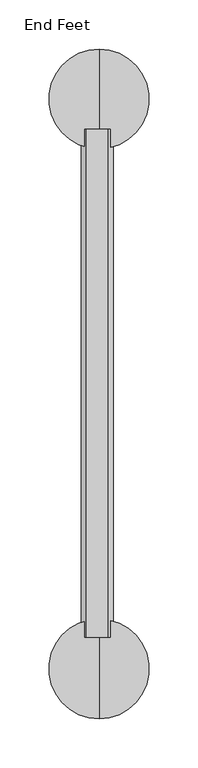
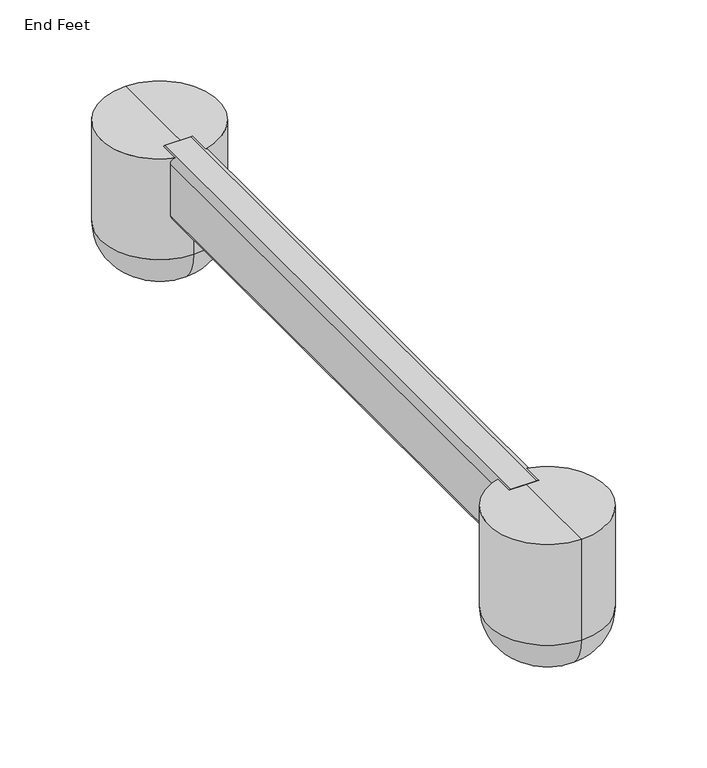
"""IFC4 building model written with IfcOpenShell, lengths in millimetres: furniture geometry, Coalesse_AM_Ensemble_Chaise_EndOption : End Feet."""

from ifc_helpers import new_model, si_unit, point, frame, frame_2d, origin, place, context, project, spatial, polyline, circle_curve, ellipse_curve, trimmed, segment, composite_curve, outline, extrude, source, transform, mapped, element, save
from ifc_brep_helpers import plane_surface, cylinder_surface, revolved_surface, advanced_brep


def end_feet_60644597(model_context):
    return source(origin(), model_context, "Body", "SolidModel", [
        extrude(outline(composite_curve([segment(polyline([(73.0866867, 192.2431485), (73.0866867, 214.5893009)]), True, "CONTINUOUS"), segment(trimmed(circle_curve(frame_2d((78.1666867, 214.5893009)), 5.08), [point((73.0866867, 214.5893009))], [point((78.1666867, 219.6693009))], False, "CARTESIAN"), True, "CONTINUOUS"), segment(polyline([(78.1666867, 219.6693009), (125.0107271, 219.6693009)]), True, "CONTINUOUS"), segment(trimmed(circle_curve(frame_2d((125.0107271, 214.5893009)), 5.08), [point((125.0107271, 219.6693009))], [point((130.0907271, 214.5893009))], False, "CARTESIAN"), True, "CONTINUOUS"), segment(polyline([(130.0907271, 214.5893009), (130.0907271, 192.2431485)]), True, "CONTINUOUS"), segment(trimmed(circle_curve(frame_2d((125.0107271, 192.2431485)), 5.08), [point((130.0907271, 192.2431485))], [point((125.0107271, 187.1631485))], False, "CARTESIAN"), True, "CONTINUOUS"), segment(polyline([(125.0107271, 187.1631485), (78.1666867, 187.1631485)]), True, "CONTINUOUS"), segment(trimmed(circle_curve(frame_2d((78.1666867, 192.2431485)), 5.08), [point((78.1666867, 187.1631485))], [point((73.0866867, 192.2431485))], False, "CARTESIAN"), True, "CONTINUOUS")], self_intersect=False)), frame((0.0, -664.4285803, 0.0), z_axis=(0.0, 1.0, 0.0), x_axis=(0.0, 0.0, 1.0)), (0.0, 0.0, 1.0), 518.3433707),
        advanced_brep(
        [(205.139512, -747.4877706, 130.0907271), (205.139512, -696.5184037, 130.0907271), (205.139512, -645.5490367, 130.0907271), (205.139512, -747.4877706, 38.1), (205.139512, -645.5490367, 38.1), (205.139512, -709.3877706, 0.0), (205.139512, -683.6490367, 0.0), (205.139512, -696.5184037, 0.0)],
        [
            (0, 1),
            (1, 2),
            (2, 0, circle_curve(frame((205.139512, -696.5184037, 130.0907271), z_axis=(0.0, 0.0, 1.0), x_axis=(0.0, 1.0, 0.0)), 50.969367)),
            (0, 2, circle_curve(frame((205.139512, -696.5184037, 130.0907271), z_axis=(0.0, 0.0, 1.0), x_axis=(0.0, 1.0, 0.0)), 50.969367)),
            (3, 0),
            (2, 4),
            (4, 3, circle_curve(frame((205.139512, -696.5184037, 38.1), z_axis=(0.0, 0.0, 1.0), x_axis=(0.0, 1.0, 0.0)), 50.969367)),
            (3, 4, circle_curve(frame((205.139512, -696.5184037, 38.1), z_axis=(0.0, 0.0, 1.0), x_axis=(0.0, 1.0, 0.0)), 50.969367)),
            (5, 3, circle_curve(frame((205.139512, -709.3877706, 38.1), z_axis=(-1.0, 0.0, 0.0), x_axis=(0.0, -1.0, 0.0)), 38.1)),
            (4, 6, circle_curve(frame((205.139512, -683.6490367, 38.1), z_axis=(-1.0, 0.0, 0.0), x_axis=(0.0, 1.0, 0.0)), 38.1)),
            (6, 5, circle_curve(frame((205.139512, -696.5184037, 0.0), z_axis=(0.0, 0.0, 1.0), x_axis=(0.0, 1.0, 0.0)), 12.869367)),
            (5, 6, circle_curve(frame((205.139512, -696.5184037, 0.0), z_axis=(0.0, 0.0, 1.0), x_axis=(0.0, 1.0, 0.0)), 12.869367)),
            (7, 5),
            (6, 7),
        ],
        [
            plane_surface(frame((205.139512, -696.5184037, 130.0907271), z_axis=(0.0, 0.0, 1.0), x_axis=(0.0, 1.0, 0.0))),
            cylinder_surface(frame((205.139512, -696.5184037, 130.0907271), z_axis=(0.0, 0.0, -1.0), x_axis=(0.0, 1.0, 0.0)), 50.969367),
            revolved_surface(trimmed(ellipse_curve(frame((205.139512, -683.6490367, 38.1), z_axis=(-1.0, 0.0, 0.0), x_axis=(0.0, 1.0, 0.0)), 38.1, 38.1), [point((205.139512, -645.5490367, 38.1))], [point((205.139512, -683.6490367, 0.0))], True, "CARTESIAN"), (205.139512, -696.5184037, 130.0907271), (0.0, 0.0, -1.0)),
            plane_surface(frame((205.139512, -696.5184037, 0.0), z_axis=(0.0, 0.0, -1.0), x_axis=(0.0, 1.0, 0.0))),
        ],
        [
            (0, [[1, 2, 3]]),
            (0, [[-2, -1, 4]]),
            (1, [[5, -3, 6, 7]]),
            (1, [[-6, -4, -5, 8]]),
            (2, [[9, -7, 10, 11]]),
            (2, [[-10, -8, -9, 12]]),
            (3, [[13, -11, 14]]),
            (3, [[-14, -12, -13]]),
        ],
    ),
        advanced_brep(
        [(205.139512, -166.4627706, 130.0907271), (205.139512, -115.4934037, 130.0907271), (205.139512, -64.5240367, 130.0907271), (205.139512, -166.4627706, 38.1), (205.139512, -64.5240367, 38.1), (205.139512, -128.3627706, 0.0), (205.139512, -102.6240367, 0.0), (205.139512, -115.4934037, 0.0)],
        [
            (0, 1),
            (1, 2),
            (2, 0, circle_curve(frame((205.139512, -115.4934037, 130.0907271), z_axis=(0.0, 0.0, 1.0), x_axis=(0.0, 1.0, 0.0)), 50.969367)),
            (0, 2, circle_curve(frame((205.139512, -115.4934037, 130.0907271), z_axis=(0.0, 0.0, 1.0), x_axis=(0.0, 1.0, 0.0)), 50.969367)),
            (3, 0),
            (2, 4),
            (4, 3, circle_curve(frame((205.139512, -115.4934037, 38.1), z_axis=(0.0, 0.0, 1.0), x_axis=(0.0, 1.0, 0.0)), 50.969367)),
            (3, 4, circle_curve(frame((205.139512, -115.4934037, 38.1), z_axis=(0.0, 0.0, 1.0), x_axis=(0.0, 1.0, 0.0)), 50.969367)),
            (5, 3, circle_curve(frame((205.139512, -128.3627706, 38.1), z_axis=(-1.0, 0.0, 0.0), x_axis=(0.0, -1.0, 0.0)), 38.1)),
            (4, 6, circle_curve(frame((205.139512, -102.6240367, 38.1), z_axis=(-1.0, 0.0, 0.0), x_axis=(0.0, 1.0, 0.0)), 38.1)),
            (6, 5, circle_curve(frame((205.139512, -115.4934037, 0.0), z_axis=(0.0, 0.0, 1.0), x_axis=(0.0, 1.0, 0.0)), 12.869367)),
            (5, 6, circle_curve(frame((205.139512, -115.4934037, 0.0), z_axis=(0.0, 0.0, 1.0), x_axis=(0.0, 1.0, 0.0)), 12.869367)),
            (7, 5),
            (6, 7),
        ],
        [
            plane_surface(frame((205.139512, -115.4934037, 130.0907271), z_axis=(0.0, 0.0, 1.0), x_axis=(0.0, 1.0, 0.0))),
            cylinder_surface(frame((205.139512, -115.4934037, 130.0907271), z_axis=(0.0, 0.0, -1.0), x_axis=(0.0, 1.0, 0.0)), 50.969367),
            revolved_surface(trimmed(ellipse_curve(frame((205.139512, -102.6240367, 38.1), z_axis=(-1.0, 0.0, 0.0), x_axis=(0.0, 1.0, 0.0)), 38.1, 38.1), [point((205.139512, -64.5240367, 38.1))], [point((205.139512, -102.6240367, 0.0))], True, "CARTESIAN"), (205.139512, -115.4934037, 130.0907271), (0.0, 0.0, -1.0)),
            plane_surface(frame((205.139512, -115.4934037, 0.0), z_axis=(0.0, 0.0, -1.0), x_axis=(0.0, 1.0, 0.0))),
        ],
        [
            (0, [[1, 2, 3]]),
            (0, [[-2, -1, 4]]),
            (1, [[5, -3, 6, 7]]),
            (1, [[-6, -4, -5, 8]]),
            (2, [[9, -7, 10, 11]]),
            (2, [[-10, -8, -9, 12]]),
            (3, [[13, -11, 14]]),
            (3, [[-14, -12, -13]]),
        ],
    ),
    ])


if __name__ == "__main__":
    model = new_model("IFC4")
    model_context = context("Model", 3, world=origin())
    ifc_project = project(units=[si_unit("LENGTHUNIT", "METRE", prefix="MILLI")], contexts=[model_context])
    site = spatial("IfcSite", under=ifc_project)
    building = spatial("IfcBuilding", under=site)
    placement = place(None, origin())
    end_feet_shape = end_feet_60644597(model_context)
    element("IfcFurniture", 1, ObjectType="Coalesse_AM_Ensemble_Chaise_EndOption : End Feet", at=placement, inside=building, context=model_context, shape_type="MappedRepresentation", body=[
        mapped(end_feet_shape, transform((0.0, 0.0, 0.0), x_axis=(1.0, 0.0, 0.0), y_axis=(0.0, 1.0, 0.0), z_axis=(0.0, 0.0, 1.0))),
    ])
    save(model, "model.ifc")
